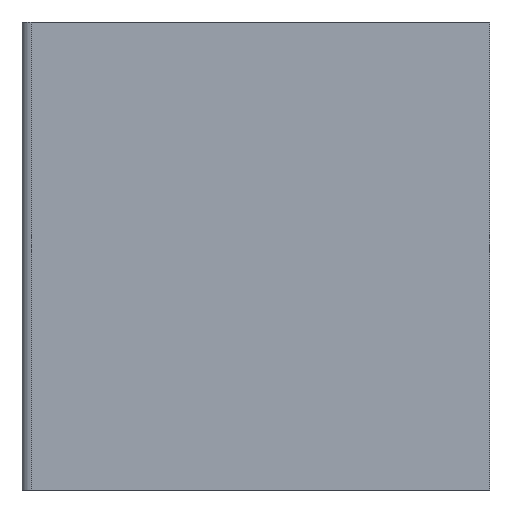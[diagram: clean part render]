
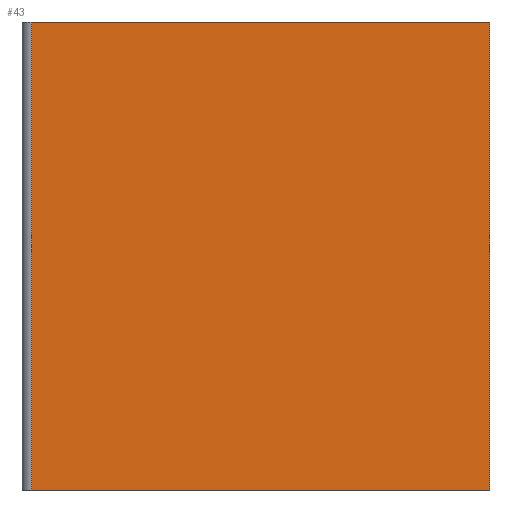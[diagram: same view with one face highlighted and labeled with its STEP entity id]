
A CAD part, left-side view. The second image highlights one B-rep face of the part: STEP entity #43.
In plain terms, the highlighted planar face has unit normal (-1, 0, 0).
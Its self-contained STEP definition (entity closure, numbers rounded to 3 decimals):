
#43 = ADVANCED_FACE ( 'NONE', ( #620 ), #621, .F. ) ;
#109 = ORIENTED_EDGE ( 'NONE', *, *, #1619, .F. ) ;
#125 = VERTEX_POINT ( 'NONE', #1260 ) ;
#215 = VERTEX_POINT ( 'NONE', #422 ) ;
#216 = VERTEX_POINT ( 'NONE', #423 ) ;
#242 = EDGE_CURVE ( 'NONE', #478, #215, #507, .T. ) ;
#243 = EDGE_CURVE ( 'NONE', #216, #478, #511, .T. ) ;
#330 = LINE ( 'NONE', #331, #332 ) ;
#331 = CARTESIAN_POINT ( 'NONE',  ( 0., 48.982, 50. ) ) ;
#332 = VECTOR ( 'NONE', #333, 1000. ) ;
#333 = DIRECTION ( 'NONE',  ( 0., -1., 0. ) ) ;
#422 = CARTESIAN_POINT ( 'NONE',  ( 0., 0., 0. ) ) ;
#423 = CARTESIAN_POINT ( 'NONE',  ( 0., 48.982, 50. ) ) ;
#478 = VERTEX_POINT ( 'NONE', #840 ) ;
#507 = LINE ( 'NONE', #508, #509 ) ;
#508 = CARTESIAN_POINT ( 'NONE',  ( 0., 48.982, 0. ) ) ;
#509 = VECTOR ( 'NONE', #510, 1000. ) ;
#510 = DIRECTION ( 'NONE',  ( 0., -1., 0. ) ) ;
#511 = LINE ( 'NONE', #512, #513 ) ;
#512 = CARTESIAN_POINT ( 'NONE',  ( 0., 48.982, 50. ) ) ;
#513 = VECTOR ( 'NONE', #514, 1000. ) ;
#514 = DIRECTION ( 'NONE',  ( 0., 0., -1. ) ) ;
#620 = FACE_OUTER_BOUND ( 'NONE', #1441, .T. ) ;
#621 = PLANE ( 'NONE',  #622 ) ;
#622 = AXIS2_PLACEMENT_3D ( 'NONE', #623, #627, #628 ) ;
#623 = CARTESIAN_POINT ( 'NONE',  ( 0., 48.982, 50. ) ) ;
#627 = DIRECTION ( 'NONE',  ( 1., 0., 0. ) ) ;
#628 = DIRECTION ( 'NONE',  ( 0., 1., 0. ) ) ;
#840 = CARTESIAN_POINT ( 'NONE',  ( 0., 48.982, 0. ) ) ;
#923 = ORIENTED_EDGE ( 'NONE', *, *, #242, .T. ) ;
#1081 = LINE ( 'NONE', #1082, #1083 ) ;
#1082 = CARTESIAN_POINT ( 'NONE',  ( 0., 0., 50. ) ) ;
#1083 = VECTOR ( 'NONE', #1084, 1000. ) ;
#1084 = DIRECTION ( 'NONE',  ( 0., 0., -1. ) ) ;
#1260 = CARTESIAN_POINT ( 'NONE',  ( 0., 0., 50. ) ) ;
#1329 = ORIENTED_EDGE ( 'NONE', *, *, #243, .T. ) ;
#1441 = EDGE_LOOP ( 'NONE', ( #923, #1737, #109, #1329 ) ) ;
#1619 = EDGE_CURVE ( 'NONE', #216, #125, #330, .T. ) ;
#1728 = EDGE_CURVE ( 'NONE', #125, #215, #1081, .T. ) ;
#1737 = ORIENTED_EDGE ( 'NONE', *, *, #1728, .F. ) ;
